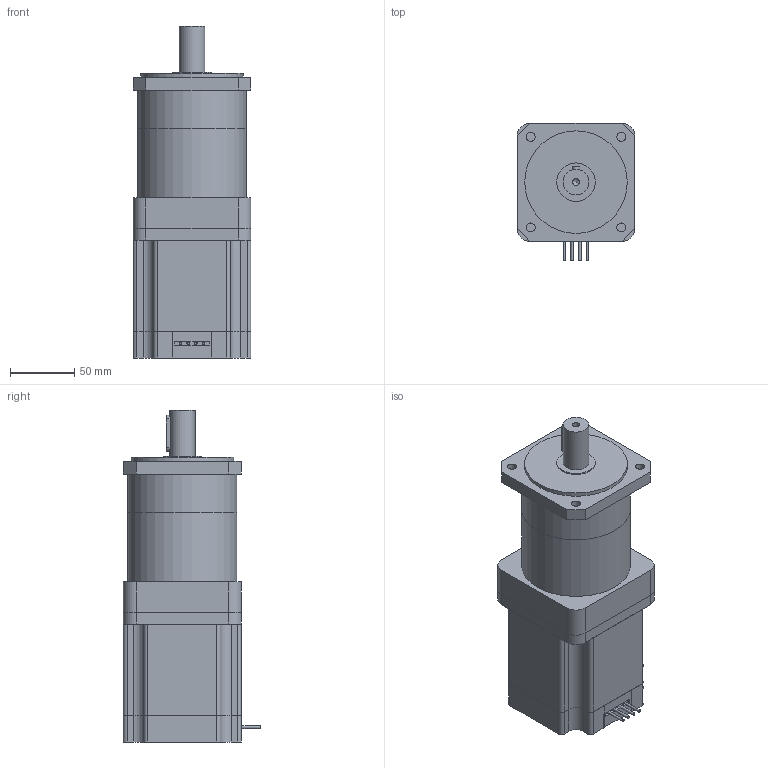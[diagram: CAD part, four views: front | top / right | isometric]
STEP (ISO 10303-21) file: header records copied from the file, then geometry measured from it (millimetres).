
FILE_DESCRIPTION(/* description */ (''),/* implementation_level */ '2;1');
FILE_NAME(/* name */ '86PG003-D60-04101.stp',/* time_stamp */ '2018-08-27T09:02:00+08:00',/* author */ (''),/* organization */ (''),/* preprocessor_version */ 'ST-DEVELOPER v11',/* originating_system */ 'SIEMENS UGS NX 6.0',/* authorisation */ '');
FILE_SCHEMA (('CONFIG_CONTROL_DESIGN'));
Length unit declared in the file: millimetre
Products named in the file (1): 86PG003-D60-04101
Bounding box: 92 x 107 x 259 mm (x, y, z)
Volume: 1549448.2 mm3; surface area: 165069.4 mm2
Topology: 6 solids, 6 shells, 121 faces, 301 edges, 202 vertices
Faces by surface type: plane 72, cylinder 48, cone 1
Full cylindrical faces by diameter (mm): 2 x4, 5.3 x1, 7 x4, 20 x1, 30 x1, 80 x1, 85 x2
Entity records: 3644 total; most frequent: CARTESIAN_POINT 659, DIRECTION 616, ORIENTED_EDGE 560, EDGE_CURVE 280, AXIS2_PLACEMENT_3D 216, VERTEX_POINT 197, LINE 184, VECTOR 184
